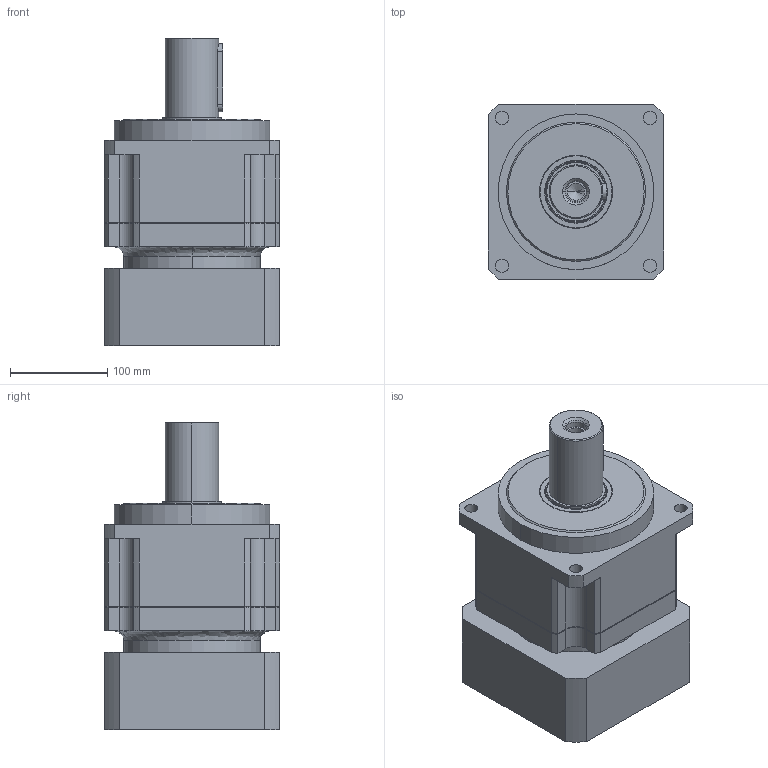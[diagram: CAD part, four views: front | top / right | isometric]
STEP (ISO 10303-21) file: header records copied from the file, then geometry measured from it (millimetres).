
FILE_DESCRIPTION (( 'STEP AP214' ), '1' );
FILE_NAME ('PLG180-L1-42-114.STEP', '2022-04-23T06:08:18', ( '' ), ( '' ), 'SwSTEP 2.0', 'SolidWorks 2017', '' );
FILE_SCHEMA (( 'AUTOMOTIVE_DESIGN' ));
Length unit declared in the file: millimetre
Products named in the file (7): 内六角圆柱头螺钉M10×35; PLG180 一级连接板 180匡 114.3x10 200xM12 80L 目录_D4-114.3 D7-200 D8-M12 A2-180 L5-10 L6-83(45+38) R-117 标准; PLG180薊粣ん-42; PLG180-L1-42-114; TC60-75-9_TC-34.9-55-7; 邧埴瑩 16x10x70; PLG180齿圈转架
Assembly tree (6 placements, depth 2):
  PLG180-L1-42-114
    PLG180齿圈转架
    PLG180薊粣ん-42
    PLG180 一级连接板 180匡 114.3x10 200xM12 80L 目录_D4-114.3 D7-200 D8-M12 A2-180 L5-10 L6-83(45+38) R-117 标准
    邧埴瑩 16x10x70
    TC60-75-9_TC-34.9-55-7
    内六角圆柱头螺钉M10×35
Bounding box: 180 x 180 x 316.5 mm (x, y, z)
Volume: 5897074.1 mm3; surface area: 456617.9 mm2
Topology: 6 solids, 6 shells, 415 faces, 1054 edges, 662 vertices
Faces by surface type: cylinder 197, plane 134, cone 62, bspline 22
Entity records: 19162 total; most frequent: CARTESIAN_POINT 4085, DIRECTION 2279, ORIENTED_EDGE 2048, EDGE_CURVE 1024, AXIS2_PLACEMENT_3D 896, VERTEX_POINT 662, EDGE_LOOP 506, CIRCLE 494
